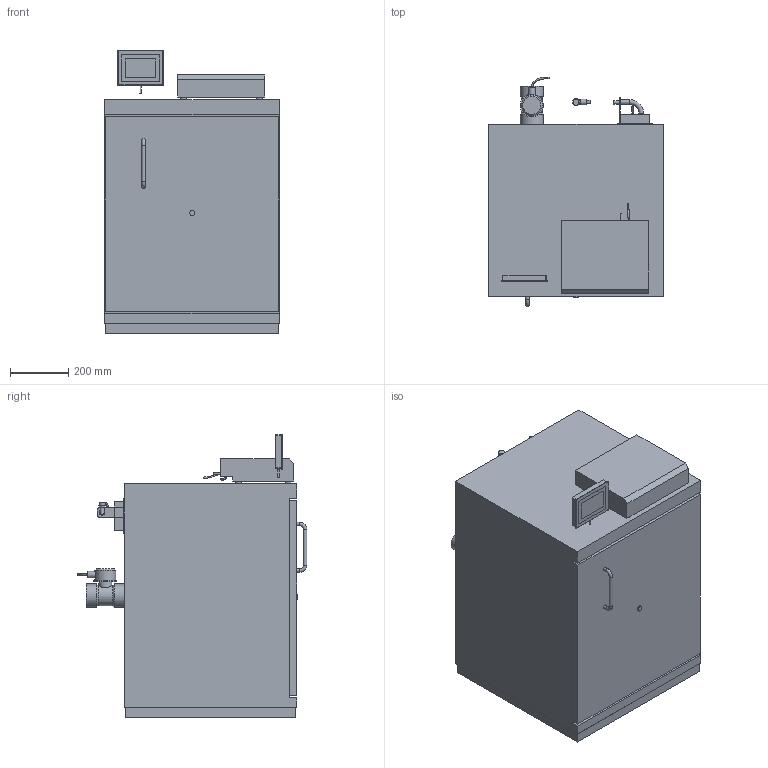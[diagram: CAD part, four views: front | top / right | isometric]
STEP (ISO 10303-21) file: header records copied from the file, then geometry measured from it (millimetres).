
FILE_DESCRIPTION(/* description */ ('Unknown'),/* implementation_level */ '2;1');
FILE_NAME(/* name */ 'D00107488',/* time_stamp */ '2020-08-24T09:39:24+02:00',/* author */ ('Unknown'),/* organization */ ('Unknown'),/* preprocessor_version */ 'ST-DEVELOPER v16.7',/* originating_system */ 'Solid Edge',/* authorisation */ 'Unknown');
FILE_SCHEMA (('AUTOMOTIVE_DESIGN {1 0 10303 214 3 1 1}'));
Length unit declared in the file: millimetre
Products named in the file (1): Sicherheitsschrank Typ 90_D00107488
Bounding box: 601 x 790.37 x 976 mm (x, y, z)
Volume: 293565648.1 mm3; surface area: 3078748 mm2
Topology: 3 solids, 3 shells, 196 faces, 466 edges, 313 vertices
Faces by surface type: plane 119, cylinder 65, bspline 6, cone 3, torus 3
Full cylindrical faces by diameter (mm): 5 x4, 6 x3, 8 x1, 10 x1, 12 x5, 14.5 x2, 16 x3, 18 x1, 19.5 x1, 20 x4, 20.96 x1, 22 x1, 45 x1, 70 x1, 72 x1, 80 x3
Entity records: 8174 total; most frequent: CARTESIAN_POINT 2442, DIRECTION 894, ORIENTED_EDGE 800, EDGE_CURVE 400, AXIS2_PLACEMENT_3D 318, VERTEX_POINT 292, EDGE_LOOP 288, FACE_BOUND 288
